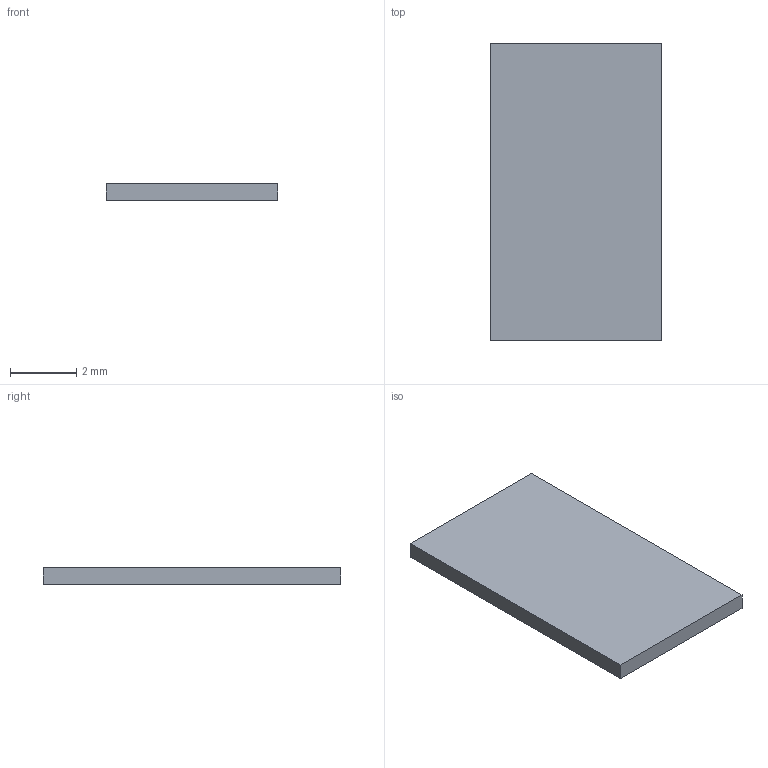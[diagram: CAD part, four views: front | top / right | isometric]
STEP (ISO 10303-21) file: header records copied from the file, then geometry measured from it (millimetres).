
FILE_DESCRIPTION(('Open CASCADE Model'),'2;1');
FILE_NAME('Open CASCADE Shape Model','2026-09-15T15:29:46',('Author'),( 'Open CASCADE'),'Open CASCADE STEP processor 7.7','Open CASCADE 7.7' ,'Unknown');
FILE_SCHEMA(('AUTOMOTIVE_DESIGN { 1 0 10303 214 1 1 1 1 }'));
Length unit declared in the file: millimetre
Products named in the file (1): Open CASCADE STEP translator 7.7 1
Bounding box: 5.2 x 9 x 0.5 mm (x, y, z)
Volume: 23.4 mm3; surface area: 107.8 mm2
Topology: 1 solids, 1 shells, 6 faces, 12 edges, 8 vertices
Faces by surface type: plane 6
Entity records: 314 total; most frequent: CARTESIAN_POINT 59, DIRECTION 42, LINE 28, VECTOR 28, ORIENTED_EDGE 24, PCURVE 24, DEFINITIONAL_REPRESENTATION 24, EDGE_CURVE 12
